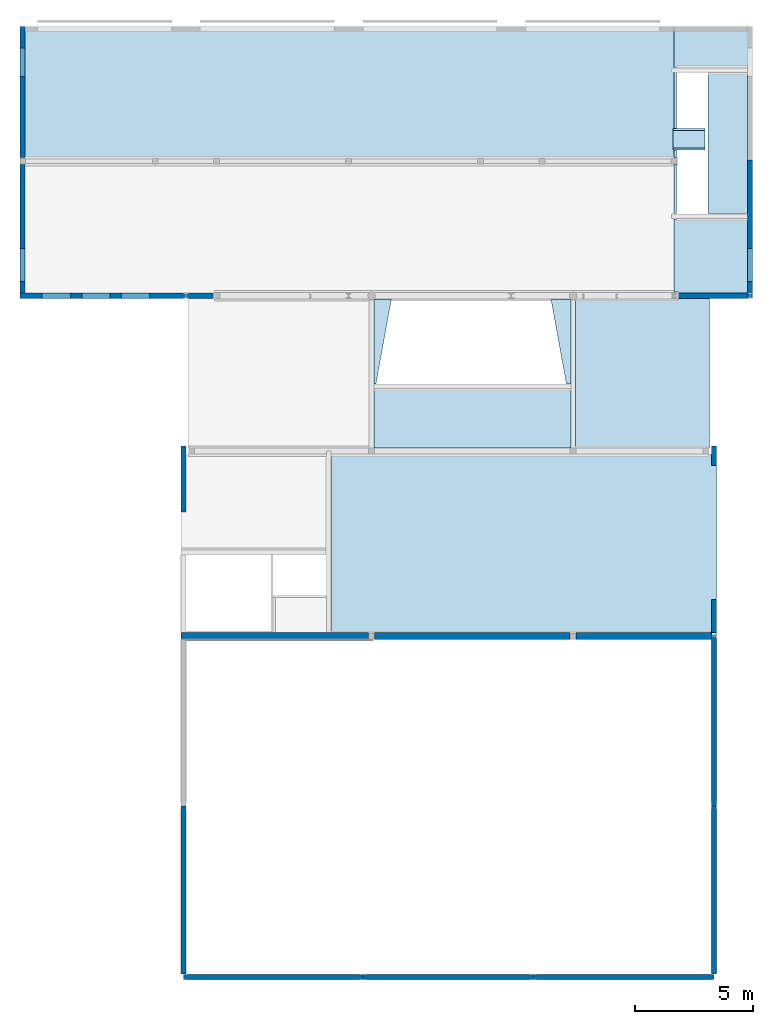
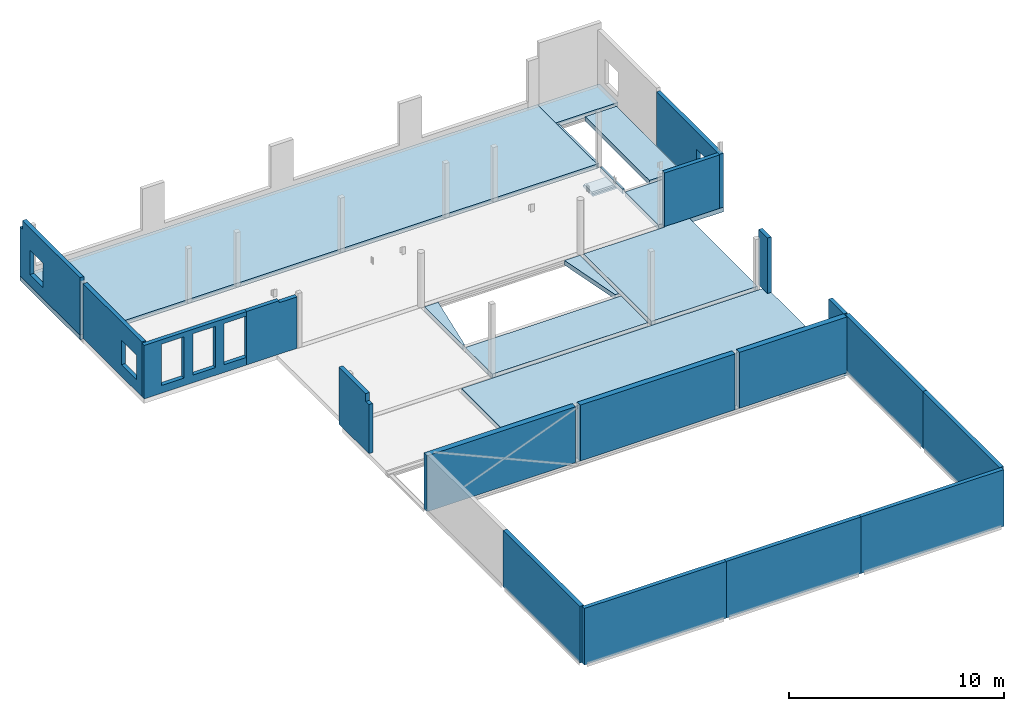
# One storey, part 3 of 6: 18 walls, 9 slabs, 14 openings.
"""IFC2X3 building model written with IfcOpenShell, lengths in millimetres."""

from ifc_helpers import new_model, entity, si_unit, converted_unit, derived_unit, direction, frame, frame_2d, origin, origin_2d_with_axis, place, context, subcontext, project, spatial, polyline, rectangle, outline, extrude, material, layer, layer_set, layer_usage, type_object, element, save


model = new_model("IFC2X3")

# Units and contexts
model_context = context("Model", 3, precision=0.01, world=origin(), true_north=direction((6.123031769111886e-17, 1.0)))
body_context = subcontext(model_context, "Body", "Model", "MODEL_VIEW")
ifc_project = project(units=[si_unit("LENGTHUNIT", "METRE", prefix="MILLI"), si_unit("AREAUNIT", "SQUARE_METRE", prefix="MILLI"), si_unit("VOLUMEUNIT", "CUBIC_METRE"), converted_unit("PLANEANGLEUNIT", "DEGREE", entity("IfcPlaneAngleMeasure", 0.017453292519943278), si_unit("PLANEANGLEUNIT", "RADIAN"), dimensions=[0, 0, 0, 0, 0, 0, 0]), si_unit("MASSUNIT", "GRAM", prefix="KILO"), derived_unit("MASSDENSITYUNIT", [(si_unit("MASSUNIT", "GRAM", prefix="KILO"), 1), (si_unit("LENGTHUNIT", "METRE"), -3)]), derived_unit("IONCONCENTRATIONUNIT", [(si_unit("MASSUNIT", "GRAM", prefix="KILO"), 1), (si_unit("LENGTHUNIT", "METRE"), -3)]), derived_unit("MOMENTOFINERTIAUNIT", [(si_unit("LENGTHUNIT", "METRE"), 4)]), si_unit("TIMEUNIT", "SECOND"), si_unit("FREQUENCYUNIT", "HERTZ"), si_unit("THERMODYNAMICTEMPERATUREUNIT", "DEGREE_CELSIUS"), derived_unit("THERMALTRANSMITTANCEUNIT", [(si_unit("MASSUNIT", "GRAM", prefix="KILO"), 1), (si_unit("THERMODYNAMICTEMPERATUREUNIT", "KELVIN"), -1), (si_unit("TIMEUNIT", "SECOND"), -3)]), derived_unit("THERMALCONDUCTANCEUNIT", [(si_unit("MASSUNIT", "GRAM", prefix="KILO"), 1), (si_unit("THERMODYNAMICTEMPERATUREUNIT", "KELVIN"), -1), (si_unit("TIMEUNIT", "SECOND"), -3), (si_unit("LENGTHUNIT", "METRE"), 1)]), derived_unit("VOLUMETRICFLOWRATEUNIT", [(si_unit("LENGTHUNIT", "METRE", prefix="DECI"), 3), (si_unit("TIMEUNIT", "SECOND"), -1)]), derived_unit("MASSFLOWRATEUNIT", [(si_unit("MASSUNIT", "GRAM", prefix="KILO"), 1), (si_unit("TIMEUNIT", "SECOND"), -1)]), derived_unit("ROTATIONALFREQUENCYUNIT", [(si_unit("TIMEUNIT", "SECOND"), -1)]), si_unit("ELECTRICCURRENTUNIT", "AMPERE"), si_unit("ELECTRICVOLTAGEUNIT", "VOLT"), si_unit("POWERUNIT", "WATT"), si_unit("FORCEUNIT", "NEWTON", prefix="KILO"), si_unit("ILLUMINANCEUNIT", "LUX"), si_unit("LUMINOUSFLUXUNIT", "LUMEN"), si_unit("LUMINOUSINTENSITYUNIT", "CANDELA"), si_unit("ENERGYUNIT", "JOULE"), derived_unit("USERDEFINED", [(si_unit("MASSUNIT", "GRAM", prefix="KILO"), -1), (si_unit("LENGTHUNIT", "METRE"), -2), (si_unit("TIMEUNIT", "SECOND"), 3), (si_unit("LUMINOUSFLUXUNIT", "LUMEN"), 1)]), derived_unit("USERDEFINED", [(si_unit("MASSUNIT", "GRAM", prefix="KILO"), 1), (si_unit("TIMEUNIT", "SECOND"), -3), (si_unit("LENGTHUNIT", "METRE"), 3), (si_unit("ELECTRICCURRENTUNIT", "AMPERE"), -2)]), derived_unit("SOUNDPOWERUNIT", [(si_unit("MASSUNIT", "GRAM", prefix="KILO"), 1), (si_unit("TIMEUNIT", "SECOND"), -3), (si_unit("LENGTHUNIT", "METRE"), 2)]), derived_unit("SOUNDPRESSUREUNIT", [(si_unit("MASSUNIT", "GRAM", prefix="KILO"), 1), (si_unit("LENGTHUNIT", "METRE"), -1), (si_unit("TIMEUNIT", "SECOND"), -2)]), derived_unit("LINEARVELOCITYUNIT", [(si_unit("LENGTHUNIT", "METRE"), 1), (si_unit("TIMEUNIT", "SECOND"), -1)]), si_unit("PRESSUREUNIT", "PASCAL"), derived_unit("USERDEFINED", [(si_unit("MASSUNIT", "GRAM", prefix="KILO"), 1), (si_unit("LENGTHUNIT", "METRE"), -2), (si_unit("TIMEUNIT", "SECOND"), -2)]), derived_unit("LINEARFORCEUNIT", [(si_unit("MASSUNIT", "GRAM", prefix="KILO"), 1), (si_unit("TIMEUNIT", "SECOND"), -2)]), derived_unit("PLANARFORCEUNIT", [(si_unit("MASSUNIT", "GRAM", prefix="KILO"), 1), (si_unit("LENGTHUNIT", "METRE"), -1), (si_unit("TIMEUNIT", "SECOND"), -2)]), derived_unit("SPECIFICHEATCAPACITYUNIT", [(si_unit("THERMODYNAMICTEMPERATUREUNIT", "KELVIN"), -1), (si_unit("LENGTHUNIT", "METRE"), 2), (si_unit("TIMEUNIT", "SECOND"), -2)]), derived_unit("HEATFLUXDENSITYUNIT", [(si_unit("MASSUNIT", "GRAM", prefix="KILO"), 1), (si_unit("TIMEUNIT", "SECOND"), -3)]), derived_unit("HEATINGVALUEUNIT", [(si_unit("LENGTHUNIT", "METRE"), 2), (si_unit("TIMEUNIT", "SECOND"), -2)]), derived_unit("VAPORPERMEABILITYUNIT", [(si_unit("LENGTHUNIT", "METRE"), -1), (si_unit("TIMEUNIT", "SECOND"), 1)]), derived_unit("DYNAMICVISCOSITYUNIT", [(si_unit("MASSUNIT", "GRAM", prefix="KILO"), 1), (si_unit("TIMEUNIT", "SECOND"), -1), (si_unit("LENGTHUNIT", "METRE"), -1)]), derived_unit("THERMALEXPANSIONCOEFFICIENTUNIT", [(si_unit("THERMODYNAMICTEMPERATUREUNIT", "KELVIN"), -1)]), derived_unit("MODULUSOFELASTICITYUNIT", [(si_unit("MASSUNIT", "GRAM", prefix="KILO"), 1), (si_unit("LENGTHUNIT", "METRE"), -1), (si_unit("TIMEUNIT", "SECOND"), -2)]), derived_unit("ISOTHERMALMOISTURECAPACITYUNIT", [(si_unit("MASSUNIT", "GRAM", prefix="KILO"), -1), (si_unit("LENGTHUNIT", "METRE"), 3)]), derived_unit("MOISTUREDIFFUSIVITYUNIT", [(si_unit("TIMEUNIT", "SECOND"), -1), (si_unit("LENGTHUNIT", "METRE"), 2)]), derived_unit("MASSPERLENGTHUNIT", [(si_unit("MASSUNIT", "GRAM", prefix="KILO"), 1), (si_unit("LENGTHUNIT", "METRE"), -1)]), derived_unit("THERMALRESISTANCEUNIT", [(si_unit("MASSUNIT", "GRAM", prefix="KILO"), -1), (si_unit("TIMEUNIT", "SECOND"), 3), (si_unit("THERMODYNAMICTEMPERATUREUNIT", "KELVIN"), 1)]), derived_unit("ACCELERATIONUNIT", [(si_unit("LENGTHUNIT", "METRE"), 1), (si_unit("TIMEUNIT", "SECOND"), -2)]), derived_unit("ANGULARVELOCITYUNIT", [(si_unit("TIMEUNIT", "SECOND"), -1), (si_unit("PLANEANGLEUNIT", "RADIAN"), 1)]), derived_unit("LINEARSTIFFNESSUNIT", [(si_unit("MASSUNIT", "GRAM", prefix="KILO"), 1), (si_unit("TIMEUNIT", "SECOND"), -2)]), derived_unit("WARPINGCONSTANTUNIT", [(si_unit("LENGTHUNIT", "METRE"), 6)]), derived_unit("LINEARMOMENTUNIT", [(si_unit("MASSUNIT", "GRAM", prefix="KILO"), 1), (si_unit("LENGTHUNIT", "METRE"), 1), (si_unit("TIMEUNIT", "SECOND"), -2)]), derived_unit("TORQUEUNIT", [(si_unit("MASSUNIT", "GRAM", prefix="KILO"), 1), (si_unit("LENGTHUNIT", "METRE"), 2), (si_unit("TIMEUNIT", "SECOND"), -2)])], contexts=[model_context])

# Site, building, storey
site_placement = place(None, origin())
site = spatial("IfcSite", under=ifc_project, at=site_placement, Name="Default", CompositionType="ELEMENT")
building_placement = place(site_placement, origin())
building = spatial("IfcBuilding", under=site, at=building_placement, CompositionType="ELEMENT")
storey_placement = place(building_placement, frame((0.0, 0.0, 7530.0)))
storey = spatial("IfcBuildingStorey", under=building, at=storey_placement, Name="V2 2e verd. (bk ruwe vloer)", CompositionType="ELEMENT", Elevation=7529.999999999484)

# Slabs
ifc_material_1 = material(Name="Druklaag, C20/25 op systeemvloer")
ifc_layer_1 = layer(ifc_material_1, 60.0)
ifc_material_2 = material(Name="Beton, prefab - kanaalplaat")
ifc_layer_2 = layer(ifc_material_2, 200.0)
ifc_layer_set_1 = layer_set([ifc_layer_1, ifc_layer_2], Name="Floor:C1_ kanaalplaat d=200+druklaag=60-50-60")
ifc_layer_usage_1 = layer_usage(ifc_layer_set_1, "AXIS3", "POSITIVE", 0.0)
slab_type_1 = type_object("IfcSlabType", Name="Floor:C1_ kanaalplaat d=200+druklaag=60-50-60", PredefinedType="FLOOR", material=ifc_layer_set_1)
slab_1_placement = place(storey_placement, origin())
element("IfcSlab", 1, at=slab_1_placement, inside=storey, type_object=slab_type_1, material=ifc_layer_usage_1, Name="Floor:C1_ kanaalplaat d=200+druklaag=60-50-60", ObjectType="Floor:C1_ kanaalplaat d=200+druklaag=60-50-60", PredefinedType="FLOOR", context=body_context, shape_type="SweptSolid", body=[
    extrude(rectangle(XDim=5574.000000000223, YDim=27738.979520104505, at=origin_2d_with_axis()), frame((13655.4897600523, 40571.573205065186, 0.0), z_axis=(0.0, 0.0, -1.0), x_axis=(0.0, 1.0, 0.0)), (0.0, 0.0, 1.0), 260.00000000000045),
])
slab_2_placement = place(storey_placement, origin())
element("IfcSlab", 2, at=slab_2_placement, inside=storey, type_object=slab_type_1, material=ifc_layer_usage_1, Name="Floor:C1_ kanaalplaat d=200+druklaag=60-50-60", ObjectType="Floor:C1_ kanaalplaat d=200+druklaag=60-50-60", PredefinedType="FLOOR", context=body_context, shape_type="SweptSolid", body=[
    extrude(outline(polyline([(-672.4756989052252, -1260.22600438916), (2424.4270167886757, -1260.22600438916), (2424.427016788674, 2078.7716704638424), (-929.4756589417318, 2078.77167046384), (-929.475658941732, 253.77400491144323), (-822.475658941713, 253.77400491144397), (-822.4756589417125, -1072.3196709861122), (-672.4756989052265, -1072.319670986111), (-672.4756989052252, -1260.22600438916)])), frame((28785.205524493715, 32760.04886400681, 0.0), z_axis=(0.0, 0.0, -1.0), x_axis=(0.0, 1.0, 0.0)), (0.0, 0.0, 1.0), 260.00000000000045),
])
slab_3_placement = place(storey_placement, origin())
element("IfcSlab", 3, at=slab_3_placement, inside=storey, type_object=slab_type_1, material=ifc_layer_usage_1, Name="Floor:C1_ kanaalplaat d=200+druklaag=60-50-60", ObjectType="Floor:C1_ kanaalplaat d=200+druklaag=60-50-60", PredefinedType="FLOOR", context=body_context, shape_type="SweptSolid", body=[
    extrude(rectangle(XDim=1731.2561455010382, YDim=3338.997674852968, at=frame_2d((4.320099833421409e-12, 0.0), x_axis=(1.0, 0.0))), frame((29194.478357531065, 42492.94513231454, 0.0), z_axis=(0.0, 0.0, -1.0), x_axis=(0.0, 1.0, 0.0)), (0.0, 0.0, 1.0), 260.00000000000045),
])

# Slab, opening
slab_4_placement = place(storey_placement, frame((27524.979520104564, 35424.475880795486, -260.0)))
slab_4 = element("IfcSlab", 4, at=slab_4_placement, inside=storey, type_object=slab_type_1, material=ifc_layer_usage_1, Name="Floor:C1_ kanaalplaat d=200+druklaag=60-50-60", ObjectType="Floor:C1_ kanaalplaat d=200+druklaag=60-50-60", PredefinedType="FLOOR", context=body_context, shape_type="SweptSolid", body=[
    extrude(outline(polyline([(1450.4988374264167, 2928.920589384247), (-1557.4988374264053, 2928.920589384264), (-1557.4988374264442, -3033.920589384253), (1557.498837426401, -3033.920589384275), (1557.4988374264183, -963.8232651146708), (1407.498837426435, -963.8232651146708), (1407.498837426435, -663.8232651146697), (1557.4988374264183, -663.8232651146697), (1557.4988374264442, 3033.9205893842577), (1450.4988374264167, 3033.9205893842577), (1450.4988374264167, 2928.920589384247)])), frame((1557.4988374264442, 3033.920589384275, 260.0), z_axis=(0.0, 0.0, -1.0), x_axis=(-1.0, 0.0, 0.0)), (0.0, 0.0, 1.0), 260.00000000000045),
])
opening_1_placement = place(storey_placement, frame((27524.979520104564, 35424.475880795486, -260.0)))
element("IfcOpeningElement", 5, at=opening_1_placement, cuts=slab_4, ObjectType="Opening", context=body_context, shape_type="SweptSolid", body=[
    extrude(rectangle(XDim=6012.341178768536, YDim=1336.5398892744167, at=frame_2d((782.2288927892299, -57.25000000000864), x_axis=(0.0, -1.0))), frame((1557.4988374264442, 3033.920589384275, 260.0), z_axis=(0.0, 0.0, -1.0), x_axis=(-1.0, 0.0, 0.0)), (0.0, 0.0, 1.0), 260.00000000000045),
])

# Slabs
slab_5_placement = place(storey_placement, origin())
element("IfcSlab", 6, at=slab_5_placement, inside=storey, type_object=slab_type_1, material=ifc_layer_usage_1, Name="Floor:C1_ kanaalplaat d=200+druklaag=60-50-60", ObjectType="Floor:C1_ kanaalplaat d=200+druklaag=60-50-60", PredefinedType="FLOOR", context=body_context, shape_type="SweptSolid", body=[
    extrude(outline(polyline([(-2470.0, -9663.870809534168), (5090.0, -9663.870809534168), (5090.0, 6688.789218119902), (-2620.0, 6688.789218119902), (-2620.0, 2975.081591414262), (-2470.0, 2975.081591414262), (-2470.0, -9663.870809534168)])), frame((22650.196551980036, 20114.6050130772, 0.0), z_axis=(0.0, 0.0, -1.0), x_axis=(0.0, 1.0, 0.0)), (0.0, 0.0, 1.0), 260.00000000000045),
])
slab_6_placement = place(storey_placement, origin())
element("IfcSlab", 7, at=slab_6_placement, inside=storey, type_object=slab_type_1, material=ifc_layer_usage_1, Name="Floor:C1_ kanaalplaat d=200+druklaag=60-50-60", ObjectType="Floor:C1_ kanaalplaat d=200+druklaag=60-50-60", PredefinedType="FLOOR", context=body_context, shape_type="SweptSolid", body=[
    extrude(rectangle(XDim=2498.14138972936, YDim=8349.99168527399, at=frame_2d((0.0, 2.2737367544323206e-12), x_axis=(1.0, 0.0))), frame((18974.990764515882, 26733.675707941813, 0.0), z_axis=(0.0, 0.0, -1.0), x_axis=(0.0, 1.0, 0.0)), (0.0, 0.0, 1.0), 260.00000000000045),
])
slab_7_placement = place(storey_placement, origin())
element("IfcSlab", 8, at=slab_7_placement, inside=storey, type_object=slab_type_1, material=ifc_layer_usage_1, Name="Floor:C1_ kanaalplaat d=200+druklaag=60-50-60", ObjectType="Floor:C1_ kanaalplaat d=200+druklaag=60-50-60", PredefinedType="FLOOR", context=body_context, shape_type="SweptSolid", body=[
    extrude(outline(polyline([(-4255.312127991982, -3350.631699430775), (2057.6560639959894, -3350.631699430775), (2057.6560639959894, 1012.2675469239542), (2197.6560639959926, 1012.2675469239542), (2197.656063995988, 2338.3641525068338), (-4255.312127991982, 2338.364152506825), (-4255.312127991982, -3350.631699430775)])), frame((26700.618306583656, 29739.917141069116, 0.0), z_axis=(0.0, 0.0, -1.0), x_axis=(0.0, 1.0, 0.0)), (0.0, 0.0, 1.0), 260.00000000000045),
])

# Slab, opening
slab_8_placement = place(storey_placement, frame((14799.994921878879, 28202.746402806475, -260.0)))
slab_8 = element("IfcSlab", 9, at=slab_8_placement, inside=storey, type_object=slab_type_1, material=ifc_layer_usage_1, Name="Floor:C1_ kanaalplaat d=200+druklaag=60-50-60", ObjectType="Floor:C1_ kanaalplaat d=200+druklaag=60-50-60", PredefinedType="FLOOR", context=body_context, shape_type="SweptSolid", body=[
    extrude(outline(polyline([(4087.3138533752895, -1792.4134011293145), (4174.995842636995, -1792.4134011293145), (4174.995842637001, 1792.4134011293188), (-4174.995842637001, 1792.4134011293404), (-4174.995842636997, -1792.413401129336), (-3911.029296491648, -1792.413401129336), (-3289.720263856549, 1610.9238119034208), (3468.5216282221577, 1610.9223365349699), (4087.3138533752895, -1792.4134011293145)])), frame((4174.995842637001, 1792.413401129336, 260.0), z_axis=(0.0, 0.0, -1.0), x_axis=(-1.0, 0.0, 0.0)), (0.0, 0.0, 1.0), 260.00000000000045),
])
opening_2_placement = place(storey_placement, frame((14799.994921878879, 28202.746402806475, -260.0)))
element("IfcOpeningElement", 10, at=opening_2_placement, cuts=slab_8, ObjectType="Opening", context=body_context, shape_type="SweptSolid", body=[
    extrude(outline(polyline([(4087.313853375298, -1792.4134011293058), (3433.70484815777, 1802.41341713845), (-3332.823605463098, 1802.412967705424), (-3989.0931564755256, -1792.4134011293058), (4087.313853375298, -1792.4134011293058)])), frame((4174.995842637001, 1792.413401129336, 260.0), z_axis=(0.0, 0.0, -1.0), x_axis=(-1.0, 0.0, 0.0)), (0.0, 0.0, 1.0), 260.00000000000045),
])

ifc_material_3 = material(Name="Beton, prefab")
ifc_layer_3 = layer(ifc_material_3, 200.0)
ifc_layer_set_2 = layer_set([ifc_layer_3], Name="Floor:PBO prefab betonplaat d=200 (bordes)")
ifc_layer_usage_2 = layer_usage(ifc_layer_set_2, "AXIS3", "POSITIVE", 0.0)
slab_type_2 = type_object("IfcSlabType", Name="Floor:PBO prefab betonplaat d=200 (bordes)", PredefinedType="FLOOR", material=ifc_layer_set_2)
slab_9_placement = place(storey_placement, frame((27485.979520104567, 38114.57320506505, -2030.2999999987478)))
slab_9 = element("IfcSlab", 11, at=slab_9_placement, inside=storey, type_object=slab_type_2, material=ifc_layer_usage_2, Name="Floor:PBO prefab betonplaat d=200 (bordes)", ObjectType="Floor:PBO prefab betonplaat d=200 (bordes)", PredefinedType="FLOOR", context=body_context, shape_type="SweptSolid", body=[
    extrude(rectangle(XDim=939.9999999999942, YDim=1362.5398892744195, at=frame_2d((0.0, -10.0), x_axis=(0.0, -1.0))), frame((681.2699446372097, 460.0, 200.0), z_axis=(0.0, 0.0, -1.0), x_axis=(-1.0, 0.0, 0.0)), (0.0, 0.0, 1.0), 200.0),
])
opening_3_placement = place(slab_9_placement, origin())
element("IfcOpeningElement", 12, at=opening_3_placement, cuts=slab_9, Name="Floor:PBO prefab betonplaat d=200 (bordes)", ObjectType="Opening", context=body_context, shape_type="SweptSolid", body=[
    extrude(outline(polyline([(-72.85714285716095, -102.14285714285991), (37.14285714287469, -102.14285714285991), (37.14285714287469, 2.8571428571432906), (37.14285714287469, 97.85714285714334), (17.142857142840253, 97.85714285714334), (17.142857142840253, 2.8571428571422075), (-72.85714285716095, 2.8571428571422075), (-72.85714285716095, -102.14285714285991)])), frame((0.0, 17.142857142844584, 97.85714285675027), z_axis=(1.0, 0.0, 0.0), x_axis=(0.0, -1.0, 0.0)), (0.0, 0.0, 1.0), 1482.539889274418),
    extrude(rectangle(XDim=1482.539889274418, YDim=90.00000000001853, at=origin_2d_with_axis()), frame((741.269944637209, 875.0, 95.0), z_axis=(0.0, 0.0, 1.0), x_axis=(-1.0, 0.0, 0.0)), (0.0, 0.0, 1.0), 104.99999999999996),
])

# Wall, openings
ifc_material_4 = material(Name="Kalkzandsteen, lijmwerk CS12")
ifc_layer_4 = layer(ifc_material_4, 214.0)
ifc_layer_set_3 = layer_set([ifc_layer_4], Name="Basic Wall:bt_kzst 214")
ifc_layer_usage_3 = layer_usage(ifc_layer_set_3, "AXIS2", "POSITIVE", -107.0)
wall_type_1 = type_object("IfcWallType", Name="Basic Wall:bt_kzst 214", PredefinedType="STANDARD", material=ifc_layer_set_3)
wall_1_placement = place(storey_placement, frame((-107.0, 43358.57320506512, 0.0), z_axis=(0.0, 0.0, 1.0), x_axis=(0.0, -1.0, 0.0)))
wall_1 = element("IfcWallStandardCase", 13, at=wall_1_placement, inside=storey, type_object=wall_type_1, material=ifc_layer_usage_3, Name="Basic Wall:bt_kzst 214", ObjectType="Basic Wall:bt_kzst 214", context=body_context, shape_type="SweptSolid", body=[
    extrude(rectangle(XDim=5564.000000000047, YDim=214.0, at=frame_2d((2782.0000000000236, 0.0), x_axis=(-1.0, 0.0))), origin(), (0.0, 0.0, 1.0), 3259.9999999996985),
])
opening_4_placement = place(wall_1_placement, origin())
element("IfcOpeningElement", 14, at=opening_4_placement, cuts=wall_1, Name="Basic Wall:bt_kzst 214", ObjectType="Opening", context=body_context, shape_type="SweptSolid", body=[
    extrude(rectangle(XDim=494.05912365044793, YDim=214.00000000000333, at=origin_2d_with_axis()), frame((107.0, -107.0, 3025.029561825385), z_axis=(0.0, 1.0, 0.0), x_axis=(0.0, 0.0, -1.0)), (0.0, 0.0, 1.0), 214.0),
])
opening_5_placement = place(wall_1_placement, frame((43358.57320506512, 107.0, 0.0), z_axis=(0.0, 0.0, 1.0), x_axis=(0.0, 1.0, 0.0)))
element("IfcOpeningElement", 15, at=opening_5_placement, cuts=wall_1, Name="Basic Wall:bt_kzst 214", ObjectType="Opening", context=body_context, shape_type="SweptSolid", body=[
    extrude(rectangle(XDim=1400.0, YDim=1200.149653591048, at=origin_2d_with_axis()), frame((-1524.0, 41844.49837826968, 1315.9854748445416), z_axis=(1.0, 0.0, 0.0), x_axis=(0.0, 0.0, -1.0)), (0.0, 0.0, 1.0), 3048.0),
])

wall_2_placement = place(storey_placement, frame((-214.0, 31937.573205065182, 0.0)))
wall_2 = element("IfcWallStandardCase", 16, at=wall_2_placement, inside=storey, type_object=wall_type_1, material=ifc_layer_usage_3, Name="Basic Wall:bt_kzst 214", ObjectType="Basic Wall:bt_kzst 214", context=body_context, shape_type="SweptSolid", body=[
    extrude(rectangle(XDim=5499.648410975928, YDim=214.00000000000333, at=frame_2d((2749.824205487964, 3.481659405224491e-13), x_axis=(-1.0, 0.0))), origin(), (0.0, 0.0, 1.0), 3034.9999999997),
])
opening_6_placement = place(wall_2_placement, frame((214.0, -31937.573205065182, 0.0)))
element("IfcOpeningElement", 17, at=opening_6_placement, cuts=wall_2, Name="Basic Wall:bt_kzst 214", ObjectType="Opening", context=body_context, shape_type="SweptSolid", body=[
    extrude(rectangle(XDim=2339.992346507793, YDim=1200.2847605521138, at=frame_2d((0.0, -5.115907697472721e-13), x_axis=(1.0, 0.0))), frame((4685.607960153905, 30520.573205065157, 1607.9961732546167), z_axis=(0.0, 1.0, 0.0), x_axis=(0.0, 0.0, -1.0)), (0.0, 0.0, 1.0), 3048.0),
])
opening_7_placement = place(wall_2_placement, frame((214.0, -31937.573205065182, 0.0)))
element("IfcOpeningElement", 18, at=opening_7_placement, cuts=wall_2, Name="Basic Wall:bt_kzst 214", ObjectType="Opening", context=body_context, shape_type="SweptSolid", body=[
    extrude(rectangle(XDim=2339.992346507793, YDim=1200.2847605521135, at=frame_2d((0.0, -5.684341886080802e-14), x_axis=(1.0, 0.0))), frame((1325.8329450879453, 30520.573205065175, 1607.9961732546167), z_axis=(0.0, 1.0, 0.0), x_axis=(0.0, 0.0, -1.0)), (0.0, 0.0, 1.0), 3048.0),
])
opening_8_placement = place(wall_2_placement, frame((214.0, -31937.573205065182, 0.0)))
element("IfcOpeningElement", 19, at=opening_8_placement, cuts=wall_2, Name="Basic Wall:bt_kzst 214", ObjectType="Opening", context=body_context, shape_type="SweptSolid", body=[
    extrude(rectangle(XDim=2339.992346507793, YDim=1200.2847605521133, at=origin_2d_with_axis()), frame((3005.720452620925, 30520.573205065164, 1607.9961732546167), z_axis=(0.0, 1.0, 0.0), x_axis=(0.0, 0.0, -1.0)), (0.0, 0.0, 1.0), 3048.0),
])

wall_3_placement = place(storey_placement, frame((5285.648410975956, 31937.573205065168, 0.0)))
wall_3 = element("IfcWallStandardCase", 20, at=wall_3_placement, inside=storey, type_object=wall_type_1, material=ifc_layer_usage_3, Name="Basic Wall:bt_kzst 214", ObjectType="Basic Wall:bt_kzst 214", context=body_context, shape_type="SweptSolid", body=[
    extrude(rectangle(XDim=2714.907913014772, YDim=214.00000000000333, at=frame_2d((1357.453956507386, -1.2789769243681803e-13), x_axis=(-1.0, 0.0))), origin(), (0.0, 0.0, 1.0), 3034.9999999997),
])
opening_9_placement = place(wall_3_placement, origin())
element("IfcOpeningElement", 21, at=opening_9_placement, cuts=wall_3, Name="Basic Wall:bt_kzst 214", ObjectType="Opening", context=body_context, shape_type="SweptSolid", body=[
    extrude(rectangle(XDim=2339.992346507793, YDim=1200.2847605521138, at=frame_2d((0.0, -5.115907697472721e-13), x_axis=(1.0, 0.0))), frame((-600.0404508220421, -1417.0, 1607.996173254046), z_axis=(0.0, 1.0, 0.0), x_axis=(0.0, 0.0, -1.0)), (0.0, 0.0, 1.0), 3048.0),
])
opening_10_placement = place(wall_3_placement, origin())
element("IfcOpeningElement", 22, at=opening_10_placement, cuts=wall_3, Name="Basic Wall:bt_kzst 214", ObjectType="Opening", context=body_context, shape_type="SweptSolid", body=[
    extrude(rectangle(XDim=114.9999999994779, YDim=982.5319646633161, at=frame_2d((1.0835776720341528e-12, -5.400124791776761e-13), x_axis=(1.0, 0.0))), frame((2223.6419306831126, 107.0, 2977.49999999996), z_axis=(0.0, -1.0, 0.0), x_axis=(0.0, 0.0, 1.0)), (0.0, 0.0, 1.0), 214.0),
])

# Wall, opening
ifc_layer_usage_4 = layer_usage(ifc_layer_set_3, "AXIS2", "NEGATIVE", 107.0)
wall_4_placement = place(storey_placement, frame((30756.977194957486, 37694.38570506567, 0.0), z_axis=(0.0, 0.0, 1.0), x_axis=(0.0, -1.0, 0.0)))
wall_4 = element("IfcWallStandardCase", 23, at=wall_4_placement, inside=storey, type_object=wall_type_1, material=ifc_layer_usage_4, Name="Basic Wall:bt_kzst 214", ObjectType="Basic Wall:bt_kzst 214", context=body_context, shape_type="SweptSolid", body=[
    extrude(rectangle(XDim=5863.8125000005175, YDim=214.00000000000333, at=frame_2d((2931.9062500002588, 4.121147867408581e-13), x_axis=(-1.0, 0.0))), origin(), (0.0, 0.0, 1.0), 3059.999999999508),
])
opening_11_placement = place(wall_4_placement, frame((37694.38570506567, -30756.977194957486, 0.0), z_axis=(0.0, 0.0, 1.0), x_axis=(0.0, 1.0, 0.0)))
element("IfcOpeningElement", 24, at=opening_11_placement, cuts=wall_4, Name="Basic Wall:bt_kzst 214", ObjectType="Opening", context=body_context, shape_type="SweptSolid", body=[
    extrude(rectangle(XDim=1400.0, YDim=1399.6026679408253, at=origin_2d_with_axis()), frame((29339.977194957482, 33244.3745390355, 1358.202392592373), z_axis=(1.0, 0.0, 0.0), x_axis=(0.0, 0.0, -1.0)), (0.0, 0.0, 1.0), 3048.0),
])

# Wall
wall_5_placement = place(storey_placement, frame((30649.97719495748, 31937.573205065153, 0.0), z_axis=(0.0, 0.0, 1.0), x_axis=(-1.0, 0.0, 0.0)))
element("IfcWallStandardCase", 25, at=wall_5_placement, inside=storey, type_object=wall_type_1, material=ifc_layer_usage_4, Name="Basic Wall:bt_kzst 214", ObjectType="Basic Wall:bt_kzst 214", context=body_context, shape_type="SweptSolid", body=[
    extrude(rectangle(XDim=2937.0913414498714, YDim=214.00000000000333, at=frame_2d((1468.5456707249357, -8.455458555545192e-13), x_axis=(-1.0, 0.0))), origin(), (0.0, 0.0, 1.0), 3034.9999999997),
])

# Wall, opening
wall_6_placement = place(storey_placement, frame((-107.0, 32044.573205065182, 0.0), z_axis=(0.0, 0.0, 1.0), x_axis=(0.0, 1.0, 0.0)))
wall_6 = element("IfcWallStandardCase", 26, at=wall_6_placement, inside=storey, type_object=wall_type_1, material=ifc_layer_usage_4, Name="Basic Wall:bt_kzst 214", ObjectType="Basic Wall:bt_kzst 214", context=body_context, shape_type="SweptSolid", body=[
    extrude(rectangle(XDim=5450.000000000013, YDim=214.0, at=frame_2d((2725.0000000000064, 0.0), x_axis=(-1.0, 0.0))), origin(), (0.0, 0.0, 1.0), 3099.9999999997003),
])
opening_12_placement = place(wall_6_placement, frame((-32044.573205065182, -107.0, 0.0), z_axis=(0.0, 0.0, 1.0), x_axis=(0.0, -1.0, 0.0)))
element("IfcOpeningElement", 27, at=opening_12_placement, cuts=wall_6, Name="Basic Wall:bt_kzst 214", ObjectType="Opening", context=body_context, shape_type="SweptSolid", body=[
    extrude(rectangle(XDim=1400.0, YDim=1399.602667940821, at=frame_2d((-2.1600499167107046e-12, 0.0), x_axis=(0.0, 1.0))), frame((1524.0, 33244.37453903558, 1358.202392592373), z_axis=(-1.0, 0.0, 0.0), x_axis=(0.0, 1.0, 0.0)), (0.0, 0.0, 1.0), 3048.0),
])

# Walls
wall_7_placement = place(storey_placement, frame((29231.986142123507, 25558.577818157, 0.0), z_axis=(0.0, 0.0, 1.0), x_axis=(0.0, -1.0, 0.0)))
element("IfcWallStandardCase", 28, at=wall_7_placement, inside=storey, type_object=wall_type_1, material=ifc_layer_usage_4, Name="Basic Wall:bt_kzst 214", ObjectType="Basic Wall:bt_kzst 214", context=body_context, shape_type="SweptSolid", body=[
    extrude(rectangle(XDim=814.3454500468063, YDim=214.00000000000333, at=frame_2d((407.17272502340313, 0.0), x_axis=(-1.0, 0.0))), origin(), (0.0, 0.0, 1.0), 3147.9531249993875),
])
wall_8_placement = place(storey_placement, frame((29231.986142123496, 19043.95403420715, 0.0), z_axis=(0.0, 0.0, 1.0), x_axis=(0.0, -1.0, 0.0)))
element("IfcWallStandardCase", 29, at=wall_8_placement, inside=storey, type_object=wall_type_1, material=ifc_layer_usage_4, Name="Basic Wall:bt_kzst 214", ObjectType="Basic Wall:bt_kzst 214", context=body_context, shape_type="SweptSolid", body=[
    extrude(rectangle(XDim=1399.3490211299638, YDim=214.00000000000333, at=frame_2d((699.6745105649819, 0.0), x_axis=(-1.0, 0.0))), origin(), (0.0, 0.0, 1.0), 3147.9531249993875),
])

# Wall, openings
wall_9_placement = place(storey_placement, frame((6718.000781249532, 25558.577818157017, 0.0), z_axis=(0.0, 0.0, 1.0), x_axis=(0.0, -1.0, 0.0)))
wall_9 = element("IfcWallStandardCase", 30, at=wall_9_placement, inside=storey, type_object=wall_type_1, material=ifc_layer_usage_3, Name="Basic Wall:bt_kzst 214", ObjectType="Basic Wall:bt_kzst 214", context=body_context, shape_type="SweptSolid", body=[
    extrude(rectangle(XDim=2787.4420367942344, YDim=214.00000000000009, at=frame_2d((1393.7210183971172, -6.323830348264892e-13), x_axis=(-1.0, 0.0))), origin(), (0.0, 0.0, 1.0), 3224.953124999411),
])
opening_13_placement = place(wall_9_placement, origin())
element("IfcOpeningElement", 31, at=opening_13_placement, cuts=wall_9, Name="Basic Wall:bt_kzst 214", ObjectType="Opening", context=body_context, shape_type="SweptSolid", body=[
    extrude(rectangle(XDim=592.0076534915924, YDim=300.00000000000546, at=frame_2d((0.0, -2.1742607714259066e-12), x_axis=(1.0, 0.0))), frame((2637.4420367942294, -107.0, 3073.9961732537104), z_axis=(0.0, 1.0, 0.0), x_axis=(0.0, 0.0, -1.0)), (0.0, 0.0, 1.0), 213.999999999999),
])
opening_14_placement = place(wall_9_placement, origin())
element("IfcOpeningElement", 32, at=opening_14_placement, cuts=wall_9, Name="Basic Wall:bt_kzst 214", ObjectType="Opening", context=body_context, shape_type="SweptSolid", body=[
    extrude(rectangle(XDim=2348.000000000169, YDim=1760.092701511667, at=frame_2d((0.0, -2.1600499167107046e-12), x_axis=(1.0, 0.0))), frame((3665.8603693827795, -1417.0, 1604.0), z_axis=(0.0, 1.0, 0.0), x_axis=(0.0, 0.0, -1.0)), (0.0, 0.0, 1.0), 3048.0),
])

# Walls
wall_10_placement = place(storey_placement, frame((29231.985770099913, 17490.855013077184, 3.1000000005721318), z_axis=(0.0, 0.0, 1.0), x_axis=(0.0, -1.0, 0.0)))
element("IfcWallStandardCase", 33, at=wall_10_placement, inside=storey, type_object=wall_type_1, material=ifc_layer_usage_3, Name="Basic Wall:bt_kzst 214", ObjectType="Basic Wall:bt_kzst 214", context=body_context, shape_type="SweptSolid", body=[
    extrude(rectangle(XDim=7200.000000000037, YDim=214.00000000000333, at=frame_2d((3600.0000000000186, 2.1174173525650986e-12), x_axis=(-1.0, 0.0))), origin(), (0.0, 0.0, 1.0), 3212.8531249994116),
])
wall_11_placement = place(storey_placement, frame((29231.985770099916, 3162.6050130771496, 3.1000000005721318), z_axis=(0.0, 0.0, 1.0), x_axis=(0.0, 1.0, 0.0)))
element("IfcWallStandardCase", 34, at=wall_11_placement, inside=storey, type_object=wall_type_1, material=ifc_layer_usage_4, Name="Basic Wall:bt_kzst 214", ObjectType="Basic Wall:bt_kzst 214", context=body_context, shape_type="SweptSolid", body=[
    extrude(rectangle(XDim=7128.249999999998, YDim=214.00000000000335, at=frame_2d((3564.124999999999, 2.842170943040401e-14), x_axis=(-1.0, 0.0))), origin(), (0.0, 0.0, 1.0), 3212.8531249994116),
])
wall_12_placement = place(storey_placement, frame((21569.680061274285, 3037.6050130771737, 3.1000000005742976)))
element("IfcWallStandardCase", 35, at=wall_12_placement, inside=storey, type_object=wall_type_1, material=ifc_layer_usage_3, Name="Basic Wall:bt_kzst 214", ObjectType="Basic Wall:bt_kzst 214", context=body_context, shape_type="SweptSolid", body=[
    extrude(rectangle(XDim=7658.555708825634, YDim=214.00000000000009, at=frame_2d((3829.277854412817, -4.263256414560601e-14), x_axis=(-1.0, 0.0))), origin(), (0.0, 0.0, 1.0), 3212.8531249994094),
])
wall_13_placement = place(storey_placement, frame((14332.555252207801, 3037.6050130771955, 3.1000000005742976)))
element("IfcWallStandardCase", 36, at=wall_13_placement, inside=storey, type_object=wall_type_1, material=ifc_layer_usage_3, Name="Basic Wall:bt_kzst 214", ObjectType="Basic Wall:bt_kzst 214", context=body_context, shape_type="SweptSolid", body=[
    extrude(rectangle(XDim=7237.124809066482, YDim=214.00000000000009, at=frame_2d((3618.562404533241, 0.0), x_axis=(-1.0, 0.0))), origin(), (0.0, 0.0, 1.0), 3212.8531249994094),
])
wall_14_placement = place(storey_placement, frame((6721.750781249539, 3037.60501307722, 3.1000000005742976)))
element("IfcWallStandardCase", 37, at=wall_14_placement, inside=storey, type_object=wall_type_1, material=ifc_layer_usage_3, Name="Basic Wall:bt_kzst 214", ObjectType="Basic Wall:bt_kzst 214", context=body_context, shape_type="SweptSolid", body=[
    extrude(rectangle(XDim=7610.804470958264, YDim=214.00000000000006, at=frame_2d((3805.402235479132, 1.0658141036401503e-13), x_axis=(-1.0, 0.0))), origin(), (0.0, 0.0, 1.0), 3212.8531249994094),
])
wall_15_placement = place(storey_placement, frame((6718.0007812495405, 3162.605013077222, 3.1000000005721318), z_axis=(0.0, 0.0, 1.0), x_axis=(0.0, 1.0, 0.0)))
element("IfcWallStandardCase", 38, at=wall_15_placement, inside=storey, type_object=wall_type_1, material=ifc_layer_usage_4, Name="Basic Wall:bt_kzst 214", ObjectType="Basic Wall:bt_kzst 214", context=body_context, shape_type="SweptSolid", body=[
    extrude(rectangle(XDim=7128.249999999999, YDim=213.99999999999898, at=frame_2d((3564.1249999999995, 2.1316282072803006e-14), x_axis=(-1.0, 0.0))), origin(), (0.0, 0.0, 1.0), 3221.8531249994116),
])
ifc_layer_5 = layer(ifc_material_4, 300.0)
ifc_layer_set_4 = layer_set([ifc_layer_5], Name="Basic Wall:bt_kzst 300")
ifc_layer_usage_5 = layer_usage(ifc_layer_set_4, "AXIS2", "POSITIVE", -150.0)
wall_type_2 = type_object("IfcWallType", Name="Basic Wall:bt_kzst 300", PredefinedType="STANDARD", material=ifc_layer_set_4)
wall_16_placement = place(storey_placement, frame((6611.00078124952, 17494.60501307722, 0.0)))
element("IfcWallStandardCase", 39, at=wall_16_placement, inside=storey, type_object=wall_type_2, material=ifc_layer_usage_5, Name="Basic Wall:bt_kzst 300", ObjectType="Basic Wall:bt_kzst 300", context=body_context, shape_type="SweptSolid", body=[
    extrude(rectangle(XDim=7963.862327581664, YDim=300.00000000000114, at=frame_2d((3981.931163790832, 4.547473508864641e-13), x_axis=(-1.0, 0.0))), origin(), (0.0, 0.0, 1.0), 3167.9531250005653),
])
ifc_layer_usage_6 = layer_usage(ifc_layer_set_4, "AXIS2", "NEGATIVE", 150.0)
wall_17_placement = place(storey_placement, frame((23124.986607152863, 17494.605013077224, 0.0), z_axis=(0.0, 0.0, 1.0), x_axis=(-1.0, 0.0, 0.0)))
element("IfcWallStandardCase", 40, at=wall_17_placement, inside=storey, type_object=wall_type_2, material=ifc_layer_usage_6, Name="Basic Wall:bt_kzst 300", ObjectType="Basic Wall:bt_kzst 300", context=body_context, shape_type="SweptSolid", body=[
    extrude(rectangle(XDim=8300.123498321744, YDim=300.00000000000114, at=frame_2d((4150.061749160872, 1.2789769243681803e-13), x_axis=(-1.0, 0.0))), origin(), (0.0, 0.0, 1.0), 3167.9531250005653),
])
wall_18_placement = place(storey_placement, frame((23374.98660715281, 17494.605013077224, 0.0)))
element("IfcWallStandardCase", 41, at=wall_18_placement, inside=storey, type_object=wall_type_2, material=ifc_layer_usage_5, Name="Basic Wall:bt_kzst 300", ObjectType="Basic Wall:bt_kzst 300", context=body_context, shape_type="SweptSolid", body=[
    extrude(rectangle(XDim=5746.999534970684, YDim=300.00000000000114, at=frame_2d((2873.499767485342, 2.5579538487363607e-13), x_axis=(-1.0, 0.0))), origin(), (0.0, 0.0, 1.0), 3167.9531250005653),
])

save(model, "model.ifc")
